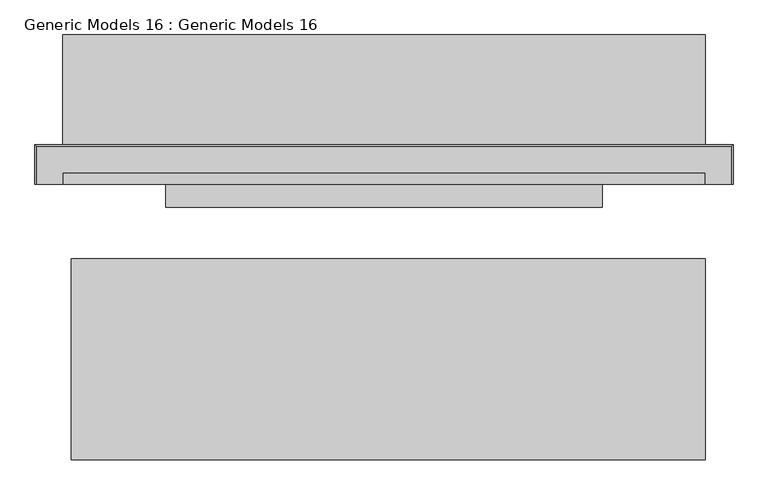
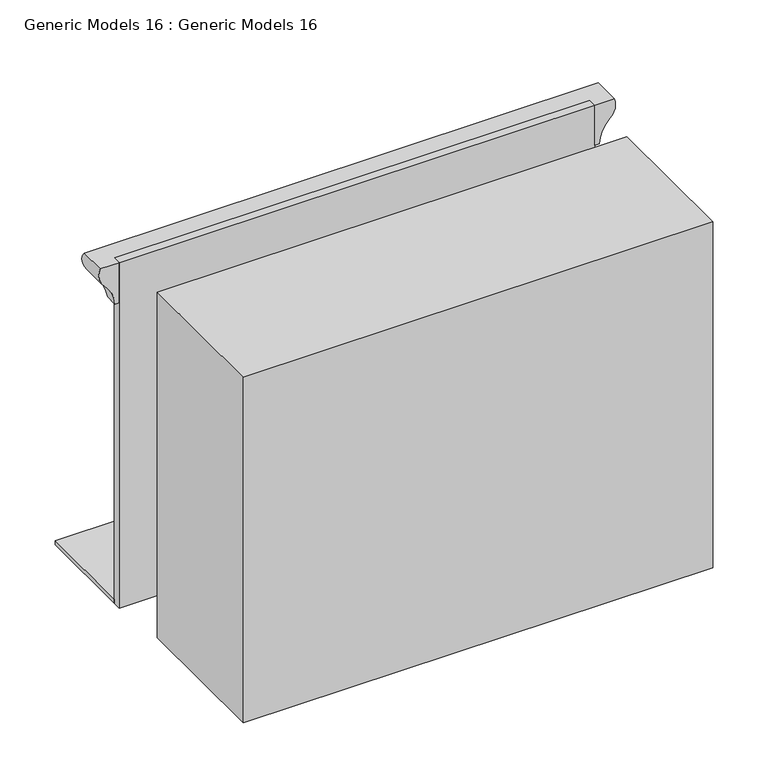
"""IFC4 building model written with IfcOpenShell, lengths in millimetres: proxy geometry, Generic Models 16 : Generic Models 16."""

from ifc_helpers import new_model, si_unit, frame, origin, place, context, project, spatial, polyline, circle_curve, ellipse_curve, outline, extrude, faceted_brep, source, transform, mapped, element, save
from ifc_brep_helpers import plane_surface, cylinder_surface, revolved_surface, advanced_brep


def generic_models_16_generic_models_16_883335f0(model_context):
    return source(origin(), model_context, "Body", "SolidModel", [
        advanced_brep(
        [(-3625.8466234, 9626.6, 4216.4), (-3613.1466234, 9626.6, 4216.4), (-3580.9431119, 9626.6, 4285.4606534), (-3568.6966234, 9626.6, 4343.4), (-3625.8466234, 9626.6, 4343.4), (-3568.6966234, 9709.15, 4343.4), (-5105.3966234, 9709.15, 4343.4), (-5105.3966234, 9626.6, 4343.4), (-5048.2466234, 9626.6, 4343.4), (-5048.2466234, 9652.0, 4343.4), (-3625.8466234, 9652.0, 4343.4), (-3625.8466234, 9652.0, 4216.4), (-5048.2466234, 9652.0, 4216.4), (-5048.2466234, 9626.6, 4216.4), (-5093.150135, 9626.6, 4285.4606534), (-5060.9466234, 9626.6, 4216.4), (-5060.9466234, 9664.7, 4216.4), (-3613.1466234, 9664.7, 4216.4), (-3580.9431119, 9696.9035115, 4285.4606534), (-5093.150135, 9696.9035115, 4285.4606534)],
        [
            (0, 1),
            (1, 2, circle_curve(frame((-3510.6367715, 9626.6, 4210.6375697), z_axis=(0.0, 1.0, 0.0), x_axis=(-1.0, 0.0, 0.0)), 102.6716872)),
            (2, 3, circle_curve(frame((-3616.4276542, 9626.6, 4323.2248559), z_axis=(0.0, -1.0, 0.0), x_axis=(-1.0, 0.0, 0.0)), 51.8197621)),
            (3, 4),
            (4, 0),
            (3, 5),
            (5, 6),
            (6, 7),
            (7, 8),
            (8, 9),
            (9, 10),
            (10, 4),
            (10, 11),
            (11, 0),
            (9, 12),
            (12, 11),
            (13, 8),
            (7, 14, circle_curve(frame((-5057.6655926, 9626.6, 4323.2248559), z_axis=(0.0, -1.0, 0.0), x_axis=(1.0, 0.0, 0.0)), 51.8197621)),
            (14, 15, circle_curve(frame((-5163.4564754, 9626.6, 4210.6375697), z_axis=(0.0, 1.0, 0.0), x_axis=(1.0, 0.0, 0.0)), 102.6716872)),
            (15, 13),
            (13, 12),
            (15, 16),
            (16, 17),
            (17, 1),
            (17, 18, ellipse_curve(frame((-3510.6367715, 9767.209852, 4210.6375697), z_axis=(-0.7071067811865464, 0.7071067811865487, 0.0), x_axis=(0.7071067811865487, 0.7071067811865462, 0.0)), 145.1996925, 102.6716872)),
            (18, 2),
            (18, 5, ellipse_curve(frame((-3616.4276542, 9661.4189692, 4323.2248559), z_axis=(0.7071067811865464, -0.7071067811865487, 0.0), x_axis=(-0.7071067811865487, -0.7071067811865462, 0.0)), 73.2842103, 51.8197621)),
            (16, 19, ellipse_curve(frame((-5163.4564754, 9767.209852, 4210.6375697), z_axis=(-0.7071067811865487, -0.7071067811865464, 0.0), x_axis=(-0.7071067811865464, 0.7071067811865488, 0.0)), 145.1996925, 102.6716872)),
            (19, 18),
            (19, 6, ellipse_curve(frame((-5057.6655926, 9661.4189692, 4323.2248559), z_axis=(0.7071067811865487, 0.7071067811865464, 0.0), x_axis=(0.7071067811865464, -0.7071067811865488, 0.0)), 73.2842103, 51.8197621)),
            (14, 19),
        ],
        [
            plane_surface(frame((-3625.8466234, 9626.6, 4343.4), z_axis=(0.0, -1.0, 0.0), x_axis=(0.0, 0.0, 1.0))),
            plane_surface(frame((-3568.6966234, 9626.6, 4343.4), z_axis=(0.0, 0.0, 1.0), x_axis=(0.0, 1.0, 0.0))),
            plane_surface(frame((-3625.8466234, 9626.6, 4343.4), z_axis=(-1.0, 0.0, 0.0), x_axis=(0.0, 1.0, 0.0))),
            plane_surface(frame((-3625.8466234, 9652.0, 4343.4), z_axis=(0.0, -1.0, 0.0), x_axis=(-1.0, 0.0, 0.0))),
            plane_surface(frame((-5048.2466234, 9626.6, 4343.4), z_axis=(0.0, -1.0, 0.0), x_axis=(0.0, 0.0, 1.0))),
            plane_surface(frame((-5048.2466234, 9652.0, 4343.4), z_axis=(1.0, 0.0, 0.0), x_axis=(0.0, -1.0, 0.0))),
            plane_surface(frame((-3625.8466234, 9626.6, 4216.4), z_axis=(0.0, 0.0, -1.0), x_axis=(0.0, 1.0, 0.0))),
            revolved_surface(polyline([(-3613.3084587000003, 9869.881539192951, 4210.6375697), (-3613.3084587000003, 9626.6, 4210.6375697)]), (-3510.6367715, 9626.6, 4210.6375697), (0.0, 1.0, 0.0)),
            cylinder_surface(frame((-3616.4276542, 9626.6, 4323.2248559), z_axis=(0.0, -1.0, 0.0), x_axis=(-1.0, 0.0, 0.0)), 51.8197621),
            revolved_surface(polyline([(-5266.128162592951, 9664.5381648, 4210.6375697), (-3407.9650843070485, 9664.5381648, 4210.6375697)]), (-3625.8466234, 9767.209852, 4210.6375697), (-1.0, 0.0, 0.0)),
            cylinder_surface(frame((-3625.8466234, 9661.4189692, 4323.2248559), z_axis=(1.0, 0.0, 0.0), x_axis=(0.0, -1.0, 0.0)), 51.8197621),
            revolved_surface(polyline([(-5060.784788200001, 9626.6, 4210.6375697), (-5060.784788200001, 9869.881539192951, 4210.6375697)]), (-5163.4564754, 9652.0, 4210.6375697), (0.0, -1.0, 0.0)),
            cylinder_surface(frame((-5057.6655926, 9652.0, 4323.2248559), z_axis=(0.0, 1.0, 0.0), x_axis=(1.0, 0.0, 0.0)), 51.8197621),
        ],
        [
            (0, [[1, 2, 3, 4, 5]]),
            (1, [[-4, 6, 7, 8, 9, 10, 11, 12]]),
            (2, [[-5, -12, 13, 14]]),
            (3, [[-13, -11, 15, 16]]),
            (4, [[17, -9, 18, 19, 20]]),
            (5, [[-15, -10, -17, 21]]),
            (6, [[-1, -14, -16, -21, -20, 22, 23, 24]]),
            (7, [[-2, -24, 25, 26]]),
            (8, [[-3, -26, 27, -6]]),
            (9, [[-25, -23, 28, 29]]),
            (10, [[-27, -29, 30, -7]]),
            (11, [[-28, -22, -19, 31]]),
            (12, [[-30, -31, -18, -8]]),
        ],
    ),
        extrude(outline(polyline([(-5048.2466234, 9652.0), (-5048.2466234, 9956.8), (-3625.8466234, 9956.8), (-3625.8466234, 9652.0), (-5048.2466234, 9652.0)])), frame((0.0, 0.0, 3251.2), z_axis=(0.0, 0.0, 1.0), x_axis=(1.0, 0.0, 0.0)), (0.0, 0.0, 1.0), 12.7),
        extrude(outline(polyline([(-4768.8466234, 9607.55), (-3905.2466234, 9607.55), (-3905.2466234, 9594.85), (-4768.8466234, 9594.85), (-4768.8466234, 9607.55)])), frame((0.0, 0.0, 3378.2), z_axis=(0.0, 0.0, 1.0), x_axis=(1.0, 0.0, 0.0)), (0.0, 0.0, 1.0), 539.75),
        extrude(outline(polyline([(4019.55, -4819.6466234), (3295.65, -4819.6466234), (3295.65, -3854.4466234), (4019.55, -3854.4466234), (4019.55, -4819.6466234)]), holes=[polyline([(3917.95, -3905.2466234), (3378.2, -3905.2466234), (3378.2, -4768.8466234), (3917.95, -4768.8466234), (3917.95, -3905.2466234)])]), frame((0.0, 9575.8, 0.0), z_axis=(0.0, 1.0, 0.0), x_axis=(0.0, 0.0, 1.0)), (0.0, 0.0, 1.0), 50.8),
        faceted_brep([(-3625.8466234, 9017.0, 3251.2), (-3625.8466234, 9017.0, 4343.4), (-5029.2, 9017.0, 4343.4), (-5029.2, 9017.0, 3251.2), (-3625.8466234, 9461.5, 4343.4), (-3625.8466234, 9461.5, 3251.2), (-5029.2, 9461.5, 3251.2), (-5029.2, 9461.5, 4343.4), (-3854.4466234, 9461.5, 3295.65), (-3854.4466234, 9461.5, 4019.55), (-4819.6466234, 9461.5, 4019.55), (-4819.6466234, 9461.5, 3295.65), (-3854.4466234, 9415.9772172, 3295.65), (-4819.6466234, 9415.9772172, 3295.65), (-4819.6466234, 9415.9772172, 4019.55), (-3854.4466234, 9415.9772172, 4019.55)], [[[0, 1, 2, 3]], [[4, 5, 6, 7], [8, 9, 10, 11]], [[1, 0, 5, 4]], [[5, 0, 3, 6]], [[1, 4, 7, 2]], [[12, 13, 14, 15]], [[9, 8, 12, 15]], [[10, 9, 15, 14]], [[11, 10, 14, 13]], [[8, 11, 13, 12]], [[3, 2, 7, 6]]]),
        extrude(outline(polyline([(3251.2, -3625.8466234), (4343.4, -3625.8466234), (4343.4, -5048.2466234), (3251.2, -5048.2466234), (3251.2, -3625.8466234)]), holes=[polyline([(3295.65, -3854.4466234), (3295.65, -4819.6466234), (4019.55, -4819.6466234), (4019.55, -3854.4466234), (3295.65, -3854.4466234)])]), frame((0.0, 9626.6, 0.0), z_axis=(0.0, 1.0, 0.0), x_axis=(0.0, 0.0, 1.0)), (0.0, 0.0, 1.0), 25.4),
    ])


if __name__ == "__main__":
    model = new_model("IFC4")
    model_context = context("Model", 3, world=origin())
    ifc_project = project(units=[si_unit("LENGTHUNIT", "METRE", prefix="MILLI")], contexts=[model_context])
    site = spatial("IfcSite", under=ifc_project)
    building = spatial("IfcBuilding", under=site)
    placement = place(None, origin())
    generic_models_16_generic_models_16_shape = generic_models_16_generic_models_16_883335f0(model_context)
    element("IfcBuildingElementProxy", 1, Name="Generic Models 16 : Generic Models 16", ObjectType="Generic Models 16 : Generic Models 16", at=placement, inside=building, context=model_context, shape_type="MappedRepresentation", body=[
        mapped(generic_models_16_generic_models_16_shape, transform((0.0, 0.0, 0.0), x_axis=(1.0, 0.0, 0.0), y_axis=(0.0, 1.0, 0.0), z_axis=(0.0, 0.0, 1.0))),
    ])
    save(model, "model.ifc")
